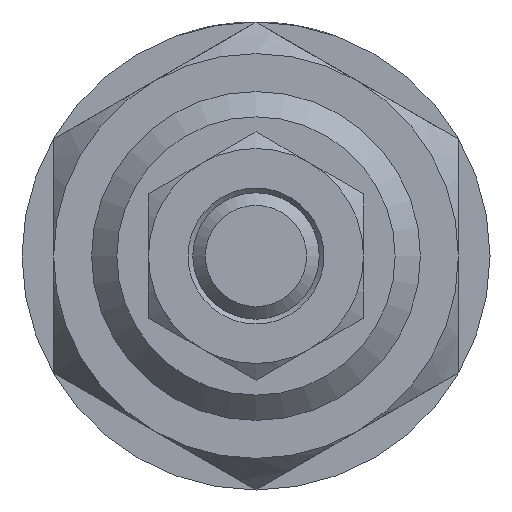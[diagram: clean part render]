
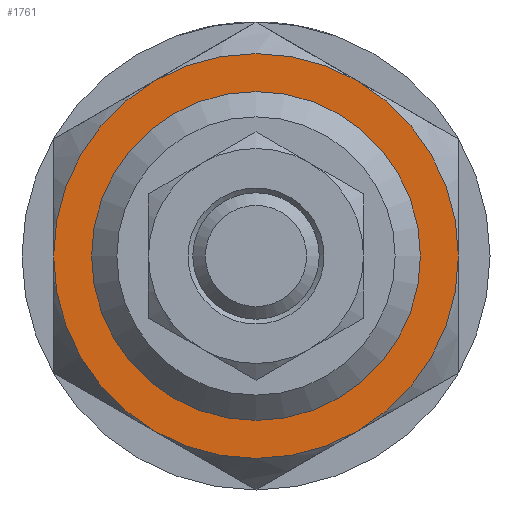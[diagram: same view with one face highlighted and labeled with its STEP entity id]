
A CAD part, front view. The second image highlights one B-rep face of the part: STEP entity #1761.
In plain terms, the highlighted planar face has unit normal (0, -1, 0).
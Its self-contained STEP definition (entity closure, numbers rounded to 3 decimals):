
#188=PLANE('',#1931);
#463=ORIENTED_EDGE('',*,*,#650,.T.);
#464=ORIENTED_EDGE('',*,*,#651,.T.);
#465=ORIENTED_EDGE('',*,*,#652,.T.);
#466=ORIENTED_EDGE('',*,*,#653,.T.);
#467=ORIENTED_EDGE('',*,*,#654,.T.);
#468=ORIENTED_EDGE('',*,*,#655,.T.);
#469=ORIENTED_EDGE('',*,*,#656,.T.);
#650=EDGE_CURVE('',#764,#764,#820,.T.);
#651=EDGE_CURVE('',#759,#763,#821,.F.);
#652=EDGE_CURVE('',#763,#765,#822,.F.);
#653=EDGE_CURVE('',#765,#746,#823,.F.);
#654=EDGE_CURVE('',#746,#751,#824,.F.);
#655=EDGE_CURVE('',#751,#755,#825,.F.);
#656=EDGE_CURVE('',#755,#759,#826,.F.);
#746=VERTEX_POINT('',#2700);
#751=VERTEX_POINT('',#2721);
#755=VERTEX_POINT('',#2740);
#759=VERTEX_POINT('',#2759);
#763=VERTEX_POINT('',#2778);
#764=VERTEX_POINT('',#2787);
#765=VERTEX_POINT('',#2790);
#820=CIRCLE('',#1932,12.75);
#821=CIRCLE('',#1933,16.);
#822=CIRCLE('',#1934,16.);
#823=CIRCLE('',#1935,16.);
#824=CIRCLE('',#1936,16.);
#825=CIRCLE('',#1937,16.);
#826=CIRCLE('',#1938,16.);
#938=EDGE_LOOP('',(#463));
#939=EDGE_LOOP('',(#464,#465,#466,#467,#468,#469));
#1064=FACE_BOUND('',#938,.T.);
#1065=FACE_BOUND('',#939,.T.);
#1761=ADVANCED_FACE('',(#1064,#1065),#188,.F.);
#1931=AXIS2_PLACEMENT_3D('',#2785,#2250,#2251);
#1932=AXIS2_PLACEMENT_3D('',#2786,#2252,#2253);
#1933=AXIS2_PLACEMENT_3D('',#2788,#2254,#2255);
#1934=AXIS2_PLACEMENT_3D('',#2789,#2256,#2257);
#1935=AXIS2_PLACEMENT_3D('',#2791,#2258,#2259);
#1936=AXIS2_PLACEMENT_3D('',#2792,#2260,#2261);
#1937=AXIS2_PLACEMENT_3D('',#2793,#2262,#2263);
#1938=AXIS2_PLACEMENT_3D('',#2794,#2264,#2265);
#2250=DIRECTION('',(0.,1.,0.));
#2251=DIRECTION('',(0.,0.,1.));
#2252=DIRECTION('',(0.,1.,0.));
#2253=DIRECTION('',(0.,0.,1.));
#2254=DIRECTION('',(0.,1.,0.));
#2255=DIRECTION('',(0.,0.,1.));
#2256=DIRECTION('',(0.,1.,0.));
#2257=DIRECTION('',(0.,0.,1.));
#2258=DIRECTION('',(0.,1.,0.));
#2259=DIRECTION('',(0.,0.,1.));
#2260=DIRECTION('',(0.,1.,0.));
#2261=DIRECTION('',(0.,0.,1.));
#2262=DIRECTION('',(0.,1.,0.));
#2263=DIRECTION('',(0.,0.,1.));
#2264=DIRECTION('',(0.,1.,0.));
#2265=DIRECTION('',(0.,0.,1.));
#2700=CARTESIAN_POINT('',(-8.,-8.,-13.856));
#2721=CARTESIAN_POINT('',(8.,-8.,-13.856));
#2740=CARTESIAN_POINT('',(16.,-8.,0.));
#2759=CARTESIAN_POINT('',(8.,-8.,13.856));
#2778=CARTESIAN_POINT('',(-8.,-8.,13.856));
#2785=CARTESIAN_POINT('',(0.,-8.,0.));
#2786=CARTESIAN_POINT('',(0.,-8.,0.));
#2787=CARTESIAN_POINT('',(0.,-8.,12.75));
#2788=CARTESIAN_POINT('',(0.,-8.,0.));
#2789=CARTESIAN_POINT('',(0.,-8.,0.));
#2790=CARTESIAN_POINT('',(-16.,-8.,0.));
#2791=CARTESIAN_POINT('',(0.,-8.,0.));
#2792=CARTESIAN_POINT('',(0.,-8.,0.));
#2793=CARTESIAN_POINT('',(0.,-8.,0.));
#2794=CARTESIAN_POINT('',(0.,-8.,0.));
